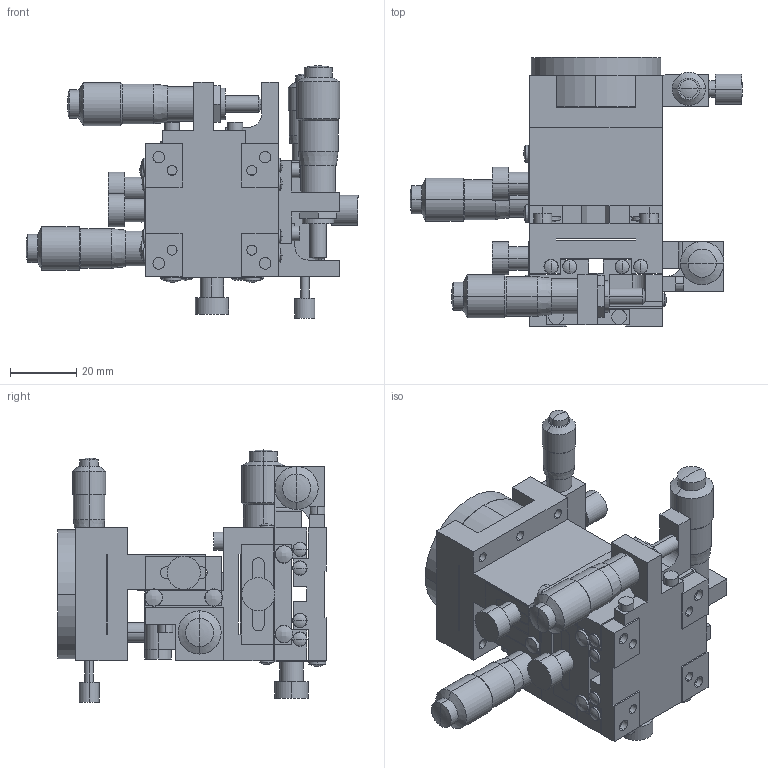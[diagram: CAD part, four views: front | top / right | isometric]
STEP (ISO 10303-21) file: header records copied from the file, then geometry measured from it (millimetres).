
FILE_DESCRIPTION (( 'STEP AP203' ), '1' );
FILE_NAME ('TR-4047-SR1.STEP', '2011-08-17T04:48:37', ( '' ), ( '' ), 'SwSTEP 2.0', 'SolidWorks 2011', '' );
FILE_SCHEMA (( 'CONFIG_CONTROL_DESIGN' ));
Length unit declared in the file: millimetre
Products named in the file (8): TR-4047-SR1; TR-4047-SR1-7; TR-4047-SR1-6; TR-4047-SR1-5; TR-4047-SR1-4; TR-4047-SR1-3; TR-4047-SR1-2; TR-4047-SR1-1
Assembly tree (7 placements, depth 2):
  TR-4047-SR1
    TR-4047-SR1-2
    TR-4047-SR1-7
    TR-4047-SR1-4
    TR-4047-SR1-1
    TR-4047-SR1-6
    TR-4047-SR1-3
    TR-4047-SR1-5
Bounding box: 100 x 81 x 76 mm (x, y, z)
Volume: 119418.8 mm3; surface area: 62653 mm2
Topology: 9 solids, 25 shells, 837 faces, 2025 edges, 1285 vertices
Faces by surface type: plane 389, cylinder 316, cone 74, sphere 40, bspline 10, torus 8
Entity records: 27522 total; most frequent: CARTESIAN_POINT 6252, DIRECTION 4531, ORIENTED_EDGE 4034, EDGE_CURVE 2017, AXIS2_PLACEMENT_3D 1700, VERTEX_POINT 1285, LINE 1131, VECTOR 1131
